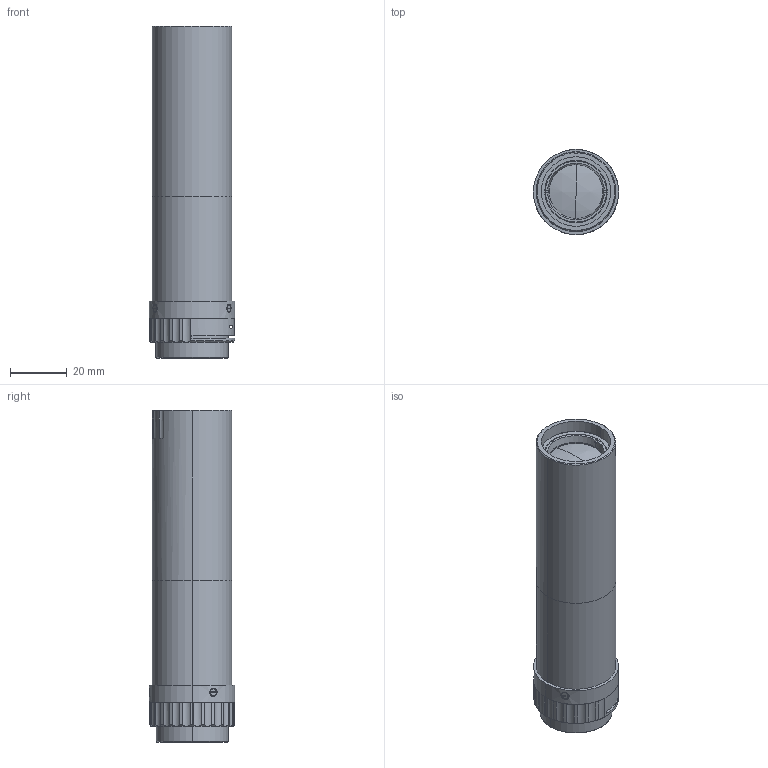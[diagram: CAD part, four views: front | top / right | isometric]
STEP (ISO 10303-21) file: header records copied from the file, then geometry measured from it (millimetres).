
FILE_DESCRIPTION (( 'STEP AP214' ), '1' );
FILE_NAME ('92552156536BB28F-00 軞蚾芞俋倛芞.STEP', '2022-07-14T12:39:09', ( '' ), ( '' ), 'SwSTEP 2.0', 'SolidWorks 2016', '' );
FILE_SCHEMA (( 'AUTOMOTIVE_DESIGN' ));
Length unit declared in the file: millimetre
Products named in the file (1): 92552156536BB28F-00 軞蚾芞俋倛芞
Bounding box: 30 x 30.03 x 117.02 mm (x, y, z)
Volume: 47419.9 mm3; surface area: 27408 mm2
Topology: 14 solids, 14 shells, 281 faces, 657 edges, 419 vertices
Faces by surface type: cylinder 137, plane 82, cone 46, sphere 16
Entity records: 11842 total; most frequent: CARTESIAN_POINT 1916, DIRECTION 1514, ORIENTED_EDGE 1302, EDGE_CURVE 651, AXIS2_PLACEMENT_3D 637, VERTEX_POINT 419, CIRCLE 355, EDGE_LOOP 326
